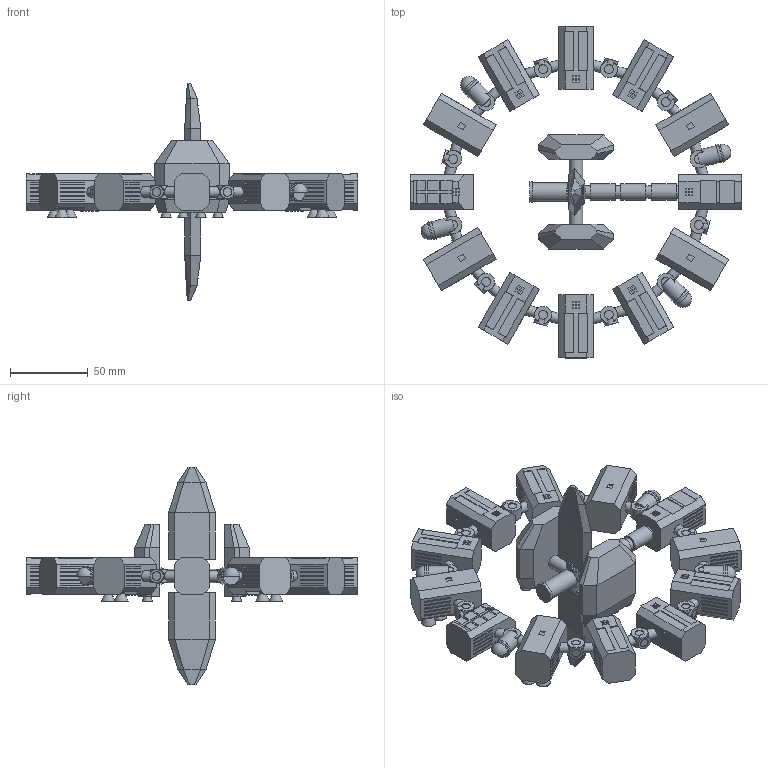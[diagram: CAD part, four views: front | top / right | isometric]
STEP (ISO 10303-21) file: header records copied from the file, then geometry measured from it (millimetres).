
FILE_DESCRIPTION(('Open CASCADE Model'),'2;1');
FILE_NAME('Open CASCADE Shape Model','2026-09-29T02:18:56',('Author'),( 'Open CASCADE'),'Open CASCADE STEP processor 7.9','Open CASCADE 7.9' ,'Unknown');
FILE_SCHEMA(('AUTOMOTIVE_DESIGN { 1 0 10303 214 1 1 1 1 }'));
Length unit declared in the file: millimetre
Products named in the file (7): endurance; ring; engine_nozzles; hub; ranger; landers; lander_nozzles
Assembly tree (6 placements, depth 2):
  endurance
    ring
    engine_nozzles
    hub
    ranger
    landers
    lander_nozzles
Bounding box: 213.33 x 213.33 x 140 mm (x, y, z)
Volume: 256075.9 mm3; surface area: 119939.1 mm2
Topology: 26 solids, 38 shells, 1607 faces, 3779 edges, 2489 vertices
Faces by surface type: plane 1372, cylinder 113, bspline 58, revolution 40, cone 20, sphere 4
Full cylindrical faces by diameter (mm): 5.667 x24, 6.667 x24, 8 x4, 8.667 x2, 8.8 x8, 10.667 x3, 11 x8, 11.333 x9, 11.667 x1, 12 x4, 12.667 x3, 13 x1
Entity records: 107734 total; most frequent: CARTESIAN_POINT 31957, DIRECTION 13168, LINE 9124, VECTOR 9124, ORIENTED_EDGE 7550, PCURVE 7550, DEFINITIONAL_REPRESENTATION 7550, EDGE_CURVE 3775
